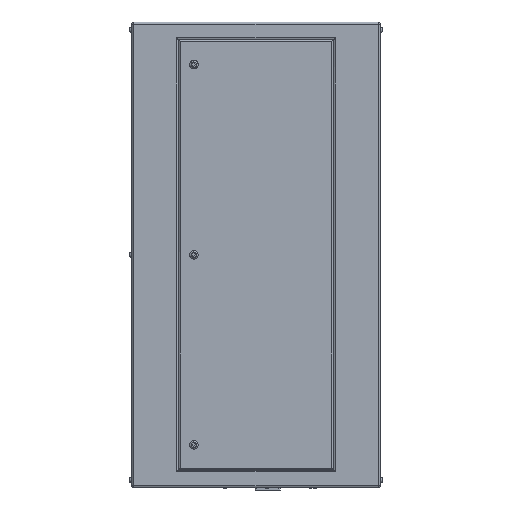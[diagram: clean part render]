
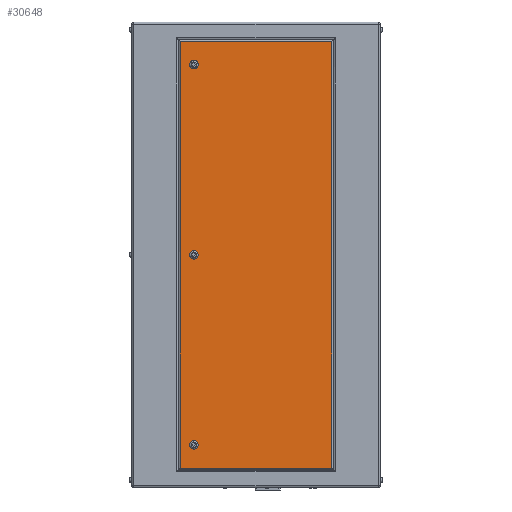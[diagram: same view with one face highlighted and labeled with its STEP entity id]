
A CAD part, left-side view. The second image highlights one B-rep face of the part: STEP entity #30648.
In plain terms, the highlighted planar face has unit normal (-1, 0, 0).
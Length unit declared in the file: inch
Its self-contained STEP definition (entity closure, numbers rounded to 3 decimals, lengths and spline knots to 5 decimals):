
#26 = DIRECTION ( 'NONE',  ( 0., 0., -1. ) ) ;
#36 = CARTESIAN_POINT ( 'NONE',  ( -18.5, 8., -25.05 ) ) ;
#415 = ORIENTED_EDGE ( 'NONE', *, *, #33677, .T. ) ;
#418 = AXIS2_PLACEMENT_3D ( 'NONE', #2869, #14442, #26 ) ;
#569 = DIRECTION ( 'NONE',  ( 1., 0., 0. ) ) ;
#1993 = VERTEX_POINT ( 'NONE', #34498 ) ;
#2013 = CARTESIAN_POINT ( 'NONE',  ( -18.5, 9.74, -30. ) ) ;
#2189 = CARTESIAN_POINT ( 'NONE',  ( -18.5, -9.74, -27.49 ) ) ;
#2869 = CARTESIAN_POINT ( 'NONE',  ( -18.5, 8., -24.5 ) ) ;
#3079 = DIRECTION ( 'NONE',  ( 1., 0., 0. ) ) ;
#3108 = VERTEX_POINT ( 'NONE', #16649 ) ;
#3610 = EDGE_LOOP ( 'NONE', ( #10686, #33226, #6669, #33423 ) ) ;
#3780 = VECTOR ( 'NONE', #32885, 39.37008 ) ;
#3862 = CARTESIAN_POINT ( 'NONE',  ( -18.5, -9.74, -30. ) ) ;
#3918 = CARTESIAN_POINT ( 'NONE',  ( -18.5, 8., 0. ) ) ;
#4425 = CIRCLE ( 'NONE', #20129, 0.55 ) ;
#4518 = VECTOR ( 'NONE', #18926, 39.37008 ) ;
#4690 = EDGE_CURVE ( 'NONE', #3108, #13649, #19498, .T. ) ;
#4986 = CIRCLE ( 'NONE', #18904, 0.55 ) ;
#5975 = ORIENTED_EDGE ( 'NONE', *, *, #11961, .T. ) ;
#6013 = VERTEX_POINT ( 'NONE', #2189 ) ;
#6163 = ORIENTED_EDGE ( 'NONE', *, *, #4690, .T. ) ;
#6669 = ORIENTED_EDGE ( 'NONE', *, *, #12149, .T. ) ;
#6795 = DIRECTION ( 'NONE',  ( 1., 0., 0. ) ) ;
#7157 = FACE_BOUND ( 'NONE', #36143, .T. ) ;
#7307 = ORIENTED_EDGE ( 'NONE', *, *, #7914, .T. ) ;
#7914 = EDGE_CURVE ( 'NONE', #35200, #15713, #4425, .T. ) ;
#9303 = CARTESIAN_POINT ( 'NONE',  ( -18.5, 16., 27.49 ) ) ;
#9553 = CARTESIAN_POINT ( 'NONE',  ( -18.5, 8., 24.5 ) ) ;
#9574 = ORIENTED_EDGE ( 'NONE', *, *, #16013, .T. ) ;
#9996 = CARTESIAN_POINT ( 'NONE',  ( -18.5, 9.74, -27.49 ) ) ;
#10223 = VECTOR ( 'NONE', #25764, 39.37008 ) ;
#10330 = CARTESIAN_POINT ( 'NONE',  ( -18.5, 8., 25.05 ) ) ;
#10686 = ORIENTED_EDGE ( 'NONE', *, *, #29443, .T. ) ;
#11136 = CARTESIAN_POINT ( 'NONE',  ( -18.5, 16., -27.49 ) ) ;
#11376 = DIRECTION ( 'NONE',  ( 0., 0., -1. ) ) ;
#11603 = CARTESIAN_POINT ( 'NONE',  ( -18.5, 8., 0.55 ) ) ;
#11961 = EDGE_CURVE ( 'NONE', #28825, #21531, #16297, .T. ) ;
#12149 = EDGE_CURVE ( 'NONE', #1993, #14719, #31881, .T. ) ;
#12947 = EDGE_LOOP ( 'NONE', ( #6163, #9574 ) ) ;
#13002 = PLANE ( 'NONE',  #20280 ) ;
#13649 = VERTEX_POINT ( 'NONE', #10330 ) ;
#14442 = DIRECTION ( 'NONE',  ( 1., 0., 0. ) ) ;
#14719 = VERTEX_POINT ( 'NONE', #34226 ) ;
#14740 = AXIS2_PLACEMENT_3D ( 'NONE', #3918, #6795, #18329 ) ;
#15090 = AXIS2_PLACEMENT_3D ( 'NONE', #21082, #29795, #15774 ) ;
#15713 = VERTEX_POINT ( 'NONE', #15831 ) ;
#15774 = DIRECTION ( 'NONE',  ( 0., 0., -1. ) ) ;
#15831 = CARTESIAN_POINT ( 'NONE',  ( -18.5, 8., -23.95 ) ) ;
#16013 = EDGE_CURVE ( 'NONE', #13649, #3108, #4986, .T. ) ;
#16041 = CARTESIAN_POINT ( 'NONE',  ( -18.5, 16., -30. ) ) ;
#16297 = CIRCLE ( 'NONE', #15090, 0.55 ) ;
#16649 = CARTESIAN_POINT ( 'NONE',  ( -18.5, 8., 23.95 ) ) ;
#18329 = DIRECTION ( 'NONE',  ( 0., 0., -1. ) ) ;
#18340 = VECTOR ( 'NONE', #33889, 39.37008 ) ;
#18690 = FACE_BOUND ( 'NONE', #12947, .T. ) ;
#18856 = EDGE_LOOP ( 'NONE', ( #7307, #20087 ) ) ;
#18904 = AXIS2_PLACEMENT_3D ( 'NONE', #9553, #3079, #21087 ) ;
#18926 = DIRECTION ( 'NONE',  ( 0., 0., -1. ) ) ;
#19498 = CIRCLE ( 'NONE', #31639, 0.55 ) ;
#20087 = ORIENTED_EDGE ( 'NONE', *, *, #36943, .T. ) ;
#20129 = AXIS2_PLACEMENT_3D ( 'NONE', #23509, #569, #35103 ) ;
#20280 = AXIS2_PLACEMENT_3D ( 'NONE', #16041, #24553, #27576 ) ;
#21082 = CARTESIAN_POINT ( 'NONE',  ( -18.5, 8., 0. ) ) ;
#21087 = DIRECTION ( 'NONE',  ( 0., 0., -1. ) ) ;
#21531 = VERTEX_POINT ( 'NONE', #34703 ) ;
#21715 = FACE_BOUND ( 'NONE', #18856, .T. ) ;
#22296 = LINE ( 'NONE', #11136, #18340 ) ;
#23509 = CARTESIAN_POINT ( 'NONE',  ( -18.5, 8., -24.5 ) ) ;
#23960 = LINE ( 'NONE', #3862, #3780 ) ;
#24553 = DIRECTION ( 'NONE',  ( 1., 0., 0. ) ) ;
#24959 = LINE ( 'NONE', #2013, #4518 ) ;
#25764 = DIRECTION ( 'NONE',  ( 0., 1., 0. ) ) ;
#26388 = CIRCLE ( 'NONE', #418, 0.55 ) ;
#27576 = DIRECTION ( 'NONE',  ( 0., 0., -1. ) ) ;
#28825 = VERTEX_POINT ( 'NONE', #11603 ) ;
#29249 = CIRCLE ( 'NONE', #14740, 0.55 ) ;
#29443 = EDGE_CURVE ( 'NONE', #31364, #6013, #22296, .T. ) ;
#29795 = DIRECTION ( 'NONE',  ( 1., 0., 0. ) ) ;
#30251 = FACE_OUTER_BOUND ( 'NONE', #3610, .T. ) ;
#30324 = EDGE_CURVE ( 'NONE', #14719, #31364, #24959, .T. ) ;
#30648 = ADVANCED_FACE ( 'NONE', ( #21715, #7157, #18690, #30251 ), #13002, .F. ) ;
#31272 = CARTESIAN_POINT ( 'NONE',  ( -18.5, 8., 24.5 ) ) ;
#31364 = VERTEX_POINT ( 'NONE', #9996 ) ;
#31639 = AXIS2_PLACEMENT_3D ( 'NONE', #31272, #37348, #11376 ) ;
#31881 = LINE ( 'NONE', #9303, #10223 ) ;
#32885 = DIRECTION ( 'NONE',  ( 0., 0., 1. ) ) ;
#33134 = EDGE_CURVE ( 'NONE', #6013, #1993, #23960, .T. ) ;
#33226 = ORIENTED_EDGE ( 'NONE', *, *, #33134, .T. ) ;
#33423 = ORIENTED_EDGE ( 'NONE', *, *, #30324, .T. ) ;
#33677 = EDGE_CURVE ( 'NONE', #21531, #28825, #29249, .T. ) ;
#33889 = DIRECTION ( 'NONE',  ( 0., -1., 0. ) ) ;
#34226 = CARTESIAN_POINT ( 'NONE',  ( -18.5, 9.74, 27.49 ) ) ;
#34498 = CARTESIAN_POINT ( 'NONE',  ( -18.5, -9.74, 27.49 ) ) ;
#34703 = CARTESIAN_POINT ( 'NONE',  ( -18.5, 8., -0.55 ) ) ;
#35103 = DIRECTION ( 'NONE',  ( 0., 0., -1. ) ) ;
#35200 = VERTEX_POINT ( 'NONE', #36 ) ;
#36143 = EDGE_LOOP ( 'NONE', ( #415, #5975 ) ) ;
#36943 = EDGE_CURVE ( 'NONE', #15713, #35200, #26388, .T. ) ;
#37348 = DIRECTION ( 'NONE',  ( 1., 0., 0. ) ) ;
